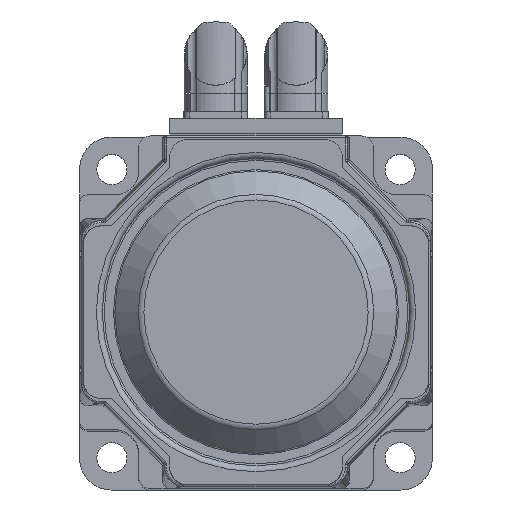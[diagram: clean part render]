
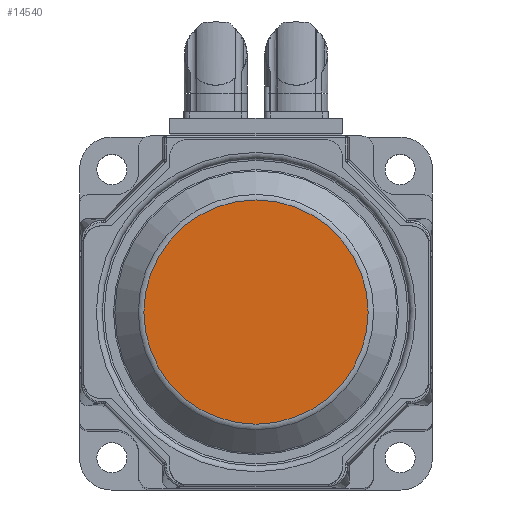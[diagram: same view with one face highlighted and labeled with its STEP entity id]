
A CAD part, top view. The second image highlights one B-rep face of the part: STEP entity #14540.
In plain terms, the highlighted planar face has unit normal (0, 0, 1).
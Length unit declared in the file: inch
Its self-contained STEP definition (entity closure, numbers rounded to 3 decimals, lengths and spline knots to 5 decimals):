
#14520=CARTESIAN_POINT('',(0.0,1.78622,1.69));
#14521=VERTEX_POINT('',#14520);
#14522=CARTESIAN_POINT('',(0.0,0.0,1.69));
#14523=DIRECTION('',(0.0,0.0,-1.0));
#14524=DIRECTION('',(0.0,1.0,0.0));
#14525=AXIS2_PLACEMENT_3D('',#14522,#14523,#14524);
#14526=CIRCLE('',#14525,1.78622);
#14527=EDGE_CURVE('',#14521,#14521,#14526,.T.);
#14532=CARTESIAN_POINT('',(0.0,0.89311,1.69));
#14533=DIRECTION('',(0.0,0.0,1.0));
#14534=DIRECTION('',(1.0,0.0,0.0));
#14535=AXIS2_PLACEMENT_3D('',#14532,#14533,#14534);
#14536=PLANE('',#14535);
#14537=ORIENTED_EDGE('',*,*,#14527,.F.);
#14538=EDGE_LOOP('',(#14537));
#14539=FACE_OUTER_BOUND('',#14538,.T.);
#14540=ADVANCED_FACE('',(#14539),#14536,.T.);
